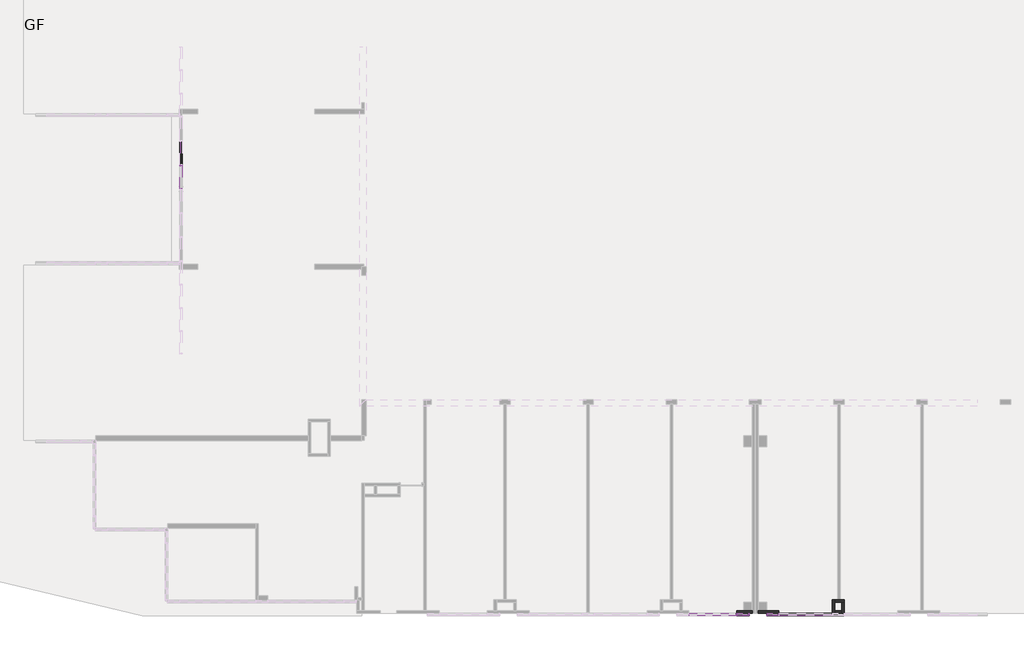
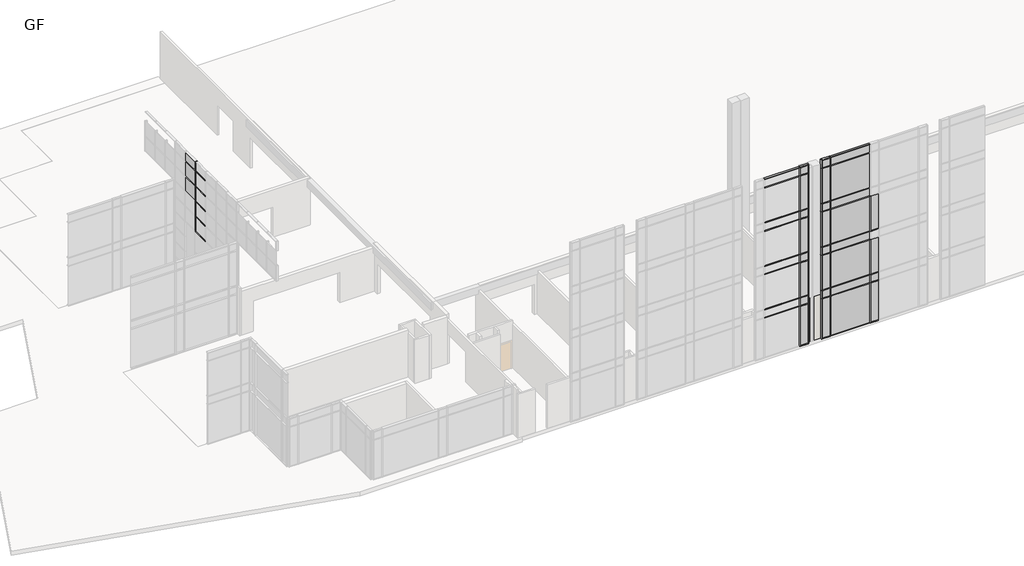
# One storey, part 7 of 23: 82 members, 31 plates, 6 walls.
"""IFC4 building model written with IfcOpenShell, lengths in millimetres."""

from ifc_helpers import new_model, si_unit, frame, origin, place, context, project, spatial, polyline, outline, extrude, faceted_brep, transform, mapped, element, save
from components import rectangular_mullion_50_x_150mm_64d38db8, rectangular_mullion_50_x_150mm_68b3818a, rectangular_mullion_50_x_150mm_f245f1eb, rectangular_mullion_50_x_150mm_350c86c2, rectangular_mullion_50_x_150mm_5fdcfccd, rectangular_mullion_50_x_150mm_d11e3bb4, rectangular_mullion_50_x_150mm_7d543e93, rectangular_mullion_50_x_150mm_9e0f1e24, rectangular_mullion_50_x_150mm_a95743fc, rectangular_mullion_50_x_150mm_dbb82e9e, rectangular_mullion_50_x_150mm_32aaa733, rectangular_mullion_50_x_150mm_9b8962c0, rectangular_mullion_50_x_150mm_2ef494cb, rectangular_mullion_50_x_150mm_4ae6e471, rectangular_mullion_50_x_150mm_a5886fcf, rectangular_mullion_50_x_150mm_d99dc9be, rectangular_mullion_50_x_150mm_457f9466, rectangular_mullion_50_x_150mm_b683183c, rectangular_mullion_50_x_150mm_ab14a89a, system_panel_glazed_f9f902e6, system_panel_glazed_6ff5b55b, system_panel_glazed_93ed122c, system_panel_glazed_123eee61, system_panel_glazed_ddb5812e, system_panel_glazed_21c84cce, system_panel_glazed_4108eabc, system_panel_glazed_0d58ddbb

model = new_model("IFC4")

# Units and contexts
model_context = context("Model", 3, world=origin())
ifc_project = project(units=[si_unit("LENGTHUNIT", "METRE", prefix="MILLI")], contexts=[model_context])

# Site, building, storey
site = spatial("IfcSite", under=ifc_project)
building = spatial("IfcBuilding", under=site)
storey = spatial("IfcBuildingStorey", under=building, Name="GF", Elevation=900.0)

# Members
placement = place(None, origin())
rectangular_mullion_50_x_150mm_shape = rectangular_mullion_50_x_150mm_64d38db8(model_context)
element("IfcMember", 1, ObjectType="Rectangular Mullion : 50 x 150mm", at=placement, inside=storey, context=model_context, shape_type="MappedRepresentation", body=[
    mapped(rectangular_mullion_50_x_150mm_shape, transform((672.4134101, -25897.6148653, 15125.0), x_axis=(0.0, 0.0, 1.0), y_axis=(0.0, -1.0, 0.0), z_axis=(1.0, 0.0, 0.0))),
])
element("IfcMember", 2, ObjectType="Rectangular Mullion : 50 x 150mm", at=placement, inside=storey, context=model_context, shape_type="MappedRepresentation", body=[
    mapped(rectangular_mullion_50_x_150mm_shape, transform((2342.4134101, -25897.6148653, 15125.0), x_axis=(0.0, 0.0, 1.0), y_axis=(0.0, -1.0, 0.0), z_axis=(1.0, 0.0, 0.0))),
])
element("IfcMember", 3, ObjectType="Rectangular Mullion : 50 x 150mm", at=placement, inside=storey, context=model_context, shape_type="MappedRepresentation", body=[
    mapped(rectangular_mullion_50_x_150mm_shape, transform((72.4134101, -25897.6148653, 900.0), x_axis=(0.0, 0.0, -1.0), y_axis=(0.0, -1.0, 0.0), z_axis=(-1.0, 0.0, 0.0))),
])
element("IfcMember", 4, ObjectType="Rectangular Mullion : 50 x 150mm", at=placement, inside=storey, context=model_context, shape_type="MappedRepresentation", body=[
    mapped(rectangular_mullion_50_x_150mm_shape, transform((1742.4134101, -25897.6148653, 900.0), x_axis=(0.0, 0.0, -1.0), y_axis=(0.0, -1.0, 0.0), z_axis=(-1.0, 0.0, 0.0))),
])
element("IfcMember", 5, ObjectType="Rectangular Mullion : 50 x 150mm", at=placement, inside=storey, context=model_context, shape_type="MappedRepresentation", body=[
    mapped(rectangular_mullion_50_x_150mm_shape, transform((5374.9134101, -25897.6148653, 900.0), x_axis=(0.0, 0.0, -1.0), y_axis=(0.0, -1.0, 0.0), z_axis=(-1.0, 0.0, 0.0))),
])
rectangular_mullion_50_x_150mm_2_shape = rectangular_mullion_50_x_150mm_68b3818a(model_context)
element("IfcMember", 6, ObjectType="Rectangular Mullion : 50 x 150mm", at=placement, inside=storey, context=model_context, shape_type="MappedRepresentation", body=[
    mapped(rectangular_mullion_50_x_150mm_2_shape, transform((672.4134101, -25897.6148653, 4750.0), x_axis=(0.0, 0.0, 1.0), y_axis=(0.0, -1.0, 0.0), z_axis=(1.0, 0.0, 0.0))),
])
element("IfcMember", 7, ObjectType="Rectangular Mullion : 50 x 150mm", at=placement, inside=storey, context=model_context, shape_type="MappedRepresentation", body=[
    mapped(rectangular_mullion_50_x_150mm_2_shape, transform((672.4134101, -25897.6148653, 4100.0), x_axis=(0.0, 0.0, 1.0), y_axis=(0.0, -1.0, 0.0), z_axis=(1.0, 0.0, 0.0))),
])
element("IfcMember", 8, ObjectType="Rectangular Mullion : 50 x 150mm", at=placement, inside=storey, context=model_context, shape_type="MappedRepresentation", body=[
    mapped(rectangular_mullion_50_x_150mm_2_shape, transform((672.4134101, -25897.6148653, 8200.0), x_axis=(0.0, 0.0, 1.0), y_axis=(0.0, -1.0, 0.0), z_axis=(1.0, 0.0, 0.0))),
])
element("IfcMember", 9, ObjectType="Rectangular Mullion : 50 x 150mm", at=placement, inside=storey, context=model_context, shape_type="MappedRepresentation", body=[
    mapped(rectangular_mullion_50_x_150mm_2_shape, transform((672.4134101, -25897.6148653, 11650.0), x_axis=(0.0, 0.0, 1.0), y_axis=(0.0, -1.0, 0.0), z_axis=(1.0, 0.0, 0.0))),
])
element("IfcMember", 10, ObjectType="Rectangular Mullion : 50 x 150mm", at=placement, inside=storey, context=model_context, shape_type="MappedRepresentation", body=[
    mapped(rectangular_mullion_50_x_150mm_2_shape, transform((672.4134101, -25897.6148653, 7550.0), x_axis=(0.0, 0.0, 1.0), y_axis=(0.0, -1.0, 0.0), z_axis=(1.0, 0.0, 0.0))),
])
element("IfcMember", 11, ObjectType="Rectangular Mullion : 50 x 150mm", at=placement, inside=storey, context=model_context, shape_type="MappedRepresentation", body=[
    mapped(rectangular_mullion_50_x_150mm_2_shape, transform((672.4134101, -25897.6148653, 11000.0), x_axis=(0.0, 0.0, 1.0), y_axis=(0.0, -1.0, 0.0), z_axis=(1.0, 0.0, 0.0))),
])
element("IfcMember", 12, ObjectType="Rectangular Mullion : 50 x 150mm", at=placement, inside=storey, context=model_context, shape_type="MappedRepresentation", body=[
    mapped(rectangular_mullion_50_x_150mm_2_shape, transform((672.4134101, -25897.6148653, 14450.0), x_axis=(0.0, 0.0, 1.0), y_axis=(0.0, -1.0, 0.0), z_axis=(1.0, 0.0, 0.0))),
])
element("IfcMember", 13, ObjectType="Rectangular Mullion : 50 x 150mm", at=placement, inside=storey, context=model_context, shape_type="MappedRepresentation", body=[
    mapped(rectangular_mullion_50_x_150mm_2_shape, transform((2342.4134101, -25897.6148653, 4750.0), x_axis=(0.0, 0.0, 1.0), y_axis=(0.0, -1.0, 0.0), z_axis=(1.0, 0.0, 0.0))),
])
element("IfcMember", 14, ObjectType="Rectangular Mullion : 50 x 150mm", at=placement, inside=storey, context=model_context, shape_type="MappedRepresentation", body=[
    mapped(rectangular_mullion_50_x_150mm_2_shape, transform((5974.9134101, -25897.6148653, 4750.0), x_axis=(0.0, 0.0, 1.0), y_axis=(0.0, -1.0, 0.0), z_axis=(1.0, 0.0, 0.0))),
])
element("IfcMember", 15, ObjectType="Rectangular Mullion : 50 x 150mm", at=placement, inside=storey, context=model_context, shape_type="MappedRepresentation", body=[
    mapped(rectangular_mullion_50_x_150mm_2_shape, transform((2342.4134101, -25897.6148653, 4100.0), x_axis=(0.0, 0.0, 1.0), y_axis=(0.0, -1.0, 0.0), z_axis=(1.0, 0.0, 0.0))),
])
element("IfcMember", 16, ObjectType="Rectangular Mullion : 50 x 150mm", at=placement, inside=storey, context=model_context, shape_type="MappedRepresentation", body=[
    mapped(rectangular_mullion_50_x_150mm_2_shape, transform((5974.9134101, -25897.6148653, 4100.0), x_axis=(0.0, 0.0, 1.0), y_axis=(0.0, -1.0, 0.0), z_axis=(1.0, 0.0, 0.0))),
])
element("IfcMember", 17, ObjectType="Rectangular Mullion : 50 x 150mm", at=placement, inside=storey, context=model_context, shape_type="MappedRepresentation", body=[
    mapped(rectangular_mullion_50_x_150mm_2_shape, transform((2342.4134101, -25897.6148653, 8200.0), x_axis=(0.0, 0.0, 1.0), y_axis=(0.0, -1.0, 0.0), z_axis=(1.0, 0.0, 0.0))),
])
element("IfcMember", 18, ObjectType="Rectangular Mullion : 50 x 150mm", at=placement, inside=storey, context=model_context, shape_type="MappedRepresentation", body=[
    mapped(rectangular_mullion_50_x_150mm_2_shape, transform((5974.9134101, -25897.6148653, 8200.0), x_axis=(0.0, 0.0, 1.0), y_axis=(0.0, -1.0, 0.0), z_axis=(1.0, 0.0, 0.0))),
])
element("IfcMember", 19, ObjectType="Rectangular Mullion : 50 x 150mm", at=placement, inside=storey, context=model_context, shape_type="MappedRepresentation", body=[
    mapped(rectangular_mullion_50_x_150mm_2_shape, transform((2342.4134101, -25897.6148653, 11650.0), x_axis=(0.0, 0.0, 1.0), y_axis=(0.0, -1.0, 0.0), z_axis=(1.0, 0.0, 0.0))),
])
element("IfcMember", 20, ObjectType="Rectangular Mullion : 50 x 150mm", at=placement, inside=storey, context=model_context, shape_type="MappedRepresentation", body=[
    mapped(rectangular_mullion_50_x_150mm_2_shape, transform((2342.4134101, -25897.6148653, 7550.0), x_axis=(0.0, 0.0, 1.0), y_axis=(0.0, -1.0, 0.0), z_axis=(1.0, 0.0, 0.0))),
])
element("IfcMember", 21, ObjectType="Rectangular Mullion : 50 x 150mm", at=placement, inside=storey, context=model_context, shape_type="MappedRepresentation", body=[
    mapped(rectangular_mullion_50_x_150mm_2_shape, transform((2342.4134101, -25897.6148653, 11000.0), x_axis=(0.0, 0.0, 1.0), y_axis=(0.0, -1.0, 0.0), z_axis=(1.0, 0.0, 0.0))),
])
element("IfcMember", 22, ObjectType="Rectangular Mullion : 50 x 150mm", at=placement, inside=storey, context=model_context, shape_type="MappedRepresentation", body=[
    mapped(rectangular_mullion_50_x_150mm_2_shape, transform((2342.4134101, -25897.6148653, 14450.0), x_axis=(0.0, 0.0, 1.0), y_axis=(0.0, -1.0, 0.0), z_axis=(1.0, 0.0, 0.0))),
])
rectangular_mullion_50_x_150mm_3_shape = rectangular_mullion_50_x_150mm_f245f1eb(model_context)
element("IfcMember", 23, ObjectType="Rectangular Mullion : 50 x 150mm", at=placement, inside=storey, context=model_context, shape_type="MappedRepresentation", body=[
    mapped(rectangular_mullion_50_x_150mm_3_shape, transform((47.4134101, -25897.6148653, 900.0), x_axis=(1.0, 0.0, 0.0), y_axis=(0.0, -1.0, 0.0), z_axis=(0.0, 0.0, -1.0))),
])
element("IfcMember", 24, ObjectType="Rectangular Mullion : 50 x 150mm", at=placement, inside=storey, context=model_context, shape_type="MappedRepresentation", body=[
    mapped(rectangular_mullion_50_x_150mm_3_shape, transform((2367.4134101, -25897.6148653, 900.0), x_axis=(1.0, 0.0, 0.0), y_axis=(0.0, -1.0, 0.0), z_axis=(0.0, 0.0, -1.0))),
])
element("IfcMember", 25, ObjectType="Rectangular Mullion : 50 x 150mm", at=placement, inside=storey, context=model_context, shape_type="MappedRepresentation", body=[
    mapped(rectangular_mullion_50_x_150mm_3_shape, transform((5349.9134101, -25897.6148653, 900.0), x_axis=(1.0, 0.0, 0.0), y_axis=(0.0, -1.0, 0.0), z_axis=(0.0, 0.0, -1.0))),
])
rectangular_mullion_50_x_150mm_4_shape = rectangular_mullion_50_x_150mm_350c86c2(model_context)
element("IfcMember", 26, ObjectType="Rectangular Mullion : 50 x 150mm", at=placement, inside=storey, context=model_context, shape_type="MappedRepresentation", body=[
    mapped(rectangular_mullion_50_x_150mm_4_shape, transform((22.4134101, -25897.6148653, 15125.0), x_axis=(0.0, 0.0, 1.0), y_axis=(0.0, -1.0, 0.0), z_axis=(1.0, 0.0, 0.0))),
])
rectangular_mullion_50_x_150mm_5_shape = rectangular_mullion_50_x_150mm_5fdcfccd(model_context)
element("IfcMember", 27, ObjectType="Rectangular Mullion : 50 x 150mm", at=placement, inside=storey, context=model_context, shape_type="MappedRepresentation", body=[
    mapped(rectangular_mullion_50_x_150mm_5_shape, transform((22.4134101, -25897.6148653, 4750.0), x_axis=(0.0, 0.0, 1.0), y_axis=(0.0, -1.0, 0.0), z_axis=(1.0, 0.0, 0.0))),
])
element("IfcMember", 28, ObjectType="Rectangular Mullion : 50 x 150mm", at=placement, inside=storey, context=model_context, shape_type="MappedRepresentation", body=[
    mapped(rectangular_mullion_50_x_150mm_5_shape, transform((22.4134101, -25897.6148653, 4100.0), x_axis=(0.0, 0.0, 1.0), y_axis=(0.0, -1.0, 0.0), z_axis=(1.0, 0.0, 0.0))),
])
element("IfcMember", 29, ObjectType="Rectangular Mullion : 50 x 150mm", at=placement, inside=storey, context=model_context, shape_type="MappedRepresentation", body=[
    mapped(rectangular_mullion_50_x_150mm_5_shape, transform((22.4134101, -25897.6148653, 8200.0), x_axis=(0.0, 0.0, 1.0), y_axis=(0.0, -1.0, 0.0), z_axis=(1.0, 0.0, 0.0))),
])
element("IfcMember", 30, ObjectType="Rectangular Mullion : 50 x 150mm", at=placement, inside=storey, context=model_context, shape_type="MappedRepresentation", body=[
    mapped(rectangular_mullion_50_x_150mm_5_shape, transform((22.4134101, -25897.6148653, 11650.0), x_axis=(0.0, 0.0, 1.0), y_axis=(0.0, -1.0, 0.0), z_axis=(1.0, 0.0, 0.0))),
])
element("IfcMember", 31, ObjectType="Rectangular Mullion : 50 x 150mm", at=placement, inside=storey, context=model_context, shape_type="MappedRepresentation", body=[
    mapped(rectangular_mullion_50_x_150mm_5_shape, transform((22.4134101, -25897.6148653, 7550.0), x_axis=(0.0, 0.0, 1.0), y_axis=(0.0, -1.0, 0.0), z_axis=(1.0, 0.0, 0.0))),
])
element("IfcMember", 32, ObjectType="Rectangular Mullion : 50 x 150mm", at=placement, inside=storey, context=model_context, shape_type="MappedRepresentation", body=[
    mapped(rectangular_mullion_50_x_150mm_5_shape, transform((22.4134101, -25897.6148653, 11000.0), x_axis=(0.0, 0.0, 1.0), y_axis=(0.0, -1.0, 0.0), z_axis=(1.0, 0.0, 0.0))),
])
element("IfcMember", 33, ObjectType="Rectangular Mullion : 50 x 150mm", at=placement, inside=storey, context=model_context, shape_type="MappedRepresentation", body=[
    mapped(rectangular_mullion_50_x_150mm_5_shape, transform((22.4134101, -25897.6148653, 14450.0), x_axis=(0.0, 0.0, 1.0), y_axis=(0.0, -1.0, 0.0), z_axis=(1.0, 0.0, 0.0))),
])
rectangular_mullion_50_x_150mm_6_shape = rectangular_mullion_50_x_150mm_d11e3bb4(model_context)
element("IfcMember", 34, ObjectType="Rectangular Mullion : 50 x 150mm", at=placement, inside=storey, context=model_context, shape_type="MappedRepresentation", body=[
    mapped(rectangular_mullion_50_x_150mm_6_shape, transform((47.4134101, -25897.6148653, 4750.0), x_axis=(1.0, 0.0, 0.0), y_axis=(0.0, -1.0, 0.0), z_axis=(0.0, 0.0, -1.0))),
])
element("IfcMember", 35, ObjectType="Rectangular Mullion : 50 x 150mm", at=placement, inside=storey, context=model_context, shape_type="MappedRepresentation", body=[
    mapped(rectangular_mullion_50_x_150mm_6_shape, transform((47.4134101, -25897.6148653, 8200.0), x_axis=(1.0, 0.0, 0.0), y_axis=(0.0, -1.0, 0.0), z_axis=(0.0, 0.0, -1.0))),
])
element("IfcMember", 36, ObjectType="Rectangular Mullion : 50 x 150mm", at=placement, inside=storey, context=model_context, shape_type="MappedRepresentation", body=[
    mapped(rectangular_mullion_50_x_150mm_6_shape, transform((47.4134101, -25897.6148653, 11650.0), x_axis=(1.0, 0.0, 0.0), y_axis=(0.0, -1.0, 0.0), z_axis=(0.0, 0.0, -1.0))),
])
element("IfcMember", 37, ObjectType="Rectangular Mullion : 50 x 150mm", at=placement, inside=storey, context=model_context, shape_type="MappedRepresentation", body=[
    mapped(rectangular_mullion_50_x_150mm_6_shape, transform((2367.4134101, -25897.6148653, 4750.0), x_axis=(1.0, 0.0, 0.0), y_axis=(0.0, -1.0, 0.0), z_axis=(0.0, 0.0, -1.0))),
])
element("IfcMember", 38, ObjectType="Rectangular Mullion : 50 x 150mm", at=placement, inside=storey, context=model_context, shape_type="MappedRepresentation", body=[
    mapped(rectangular_mullion_50_x_150mm_6_shape, transform((5349.9134101, -25897.6148653, 4750.0), x_axis=(1.0, 0.0, 0.0), y_axis=(0.0, -1.0, 0.0), z_axis=(0.0, 0.0, -1.0))),
])
element("IfcMember", 39, ObjectType="Rectangular Mullion : 50 x 150mm", at=placement, inside=storey, context=model_context, shape_type="MappedRepresentation", body=[
    mapped(rectangular_mullion_50_x_150mm_6_shape, transform((2367.4134101, -25897.6148653, 8200.0), x_axis=(1.0, 0.0, 0.0), y_axis=(0.0, -1.0, 0.0), z_axis=(0.0, 0.0, -1.0))),
])
element("IfcMember", 40, ObjectType="Rectangular Mullion : 50 x 150mm", at=placement, inside=storey, context=model_context, shape_type="MappedRepresentation", body=[
    mapped(rectangular_mullion_50_x_150mm_6_shape, transform((5349.9134101, -25897.6148653, 8200.0), x_axis=(1.0, 0.0, 0.0), y_axis=(0.0, -1.0, 0.0), z_axis=(0.0, 0.0, -1.0))),
])
element("IfcMember", 41, ObjectType="Rectangular Mullion : 50 x 150mm", at=placement, inside=storey, context=model_context, shape_type="MappedRepresentation", body=[
    mapped(rectangular_mullion_50_x_150mm_6_shape, transform((2367.4134101, -25897.6148653, 11650.0), x_axis=(1.0, 0.0, 0.0), y_axis=(0.0, -1.0, 0.0), z_axis=(0.0, 0.0, -1.0))),
])
rectangular_mullion_50_x_150mm_7_shape = rectangular_mullion_50_x_150mm_7d543e93(model_context)
element("IfcMember", 42, ObjectType="Rectangular Mullion : 50 x 150mm", at=placement, inside=storey, context=model_context, shape_type="MappedRepresentation", body=[
    mapped(rectangular_mullion_50_x_150mm_7_shape, transform((47.4134101, -25897.6148653, 4100.0), x_axis=(1.0, 0.0, 0.0), y_axis=(0.0, -1.0, 0.0), z_axis=(0.0, 0.0, -1.0))),
])
element("IfcMember", 43, ObjectType="Rectangular Mullion : 50 x 150mm", at=placement, inside=storey, context=model_context, shape_type="MappedRepresentation", body=[
    mapped(rectangular_mullion_50_x_150mm_7_shape, transform((47.4134101, -25897.6148653, 7550.0), x_axis=(1.0, 0.0, 0.0), y_axis=(0.0, -1.0, 0.0), z_axis=(0.0, 0.0, -1.0))),
])
element("IfcMember", 44, ObjectType="Rectangular Mullion : 50 x 150mm", at=placement, inside=storey, context=model_context, shape_type="MappedRepresentation", body=[
    mapped(rectangular_mullion_50_x_150mm_7_shape, transform((47.4134101, -25897.6148653, 11000.0), x_axis=(1.0, 0.0, 0.0), y_axis=(0.0, -1.0, 0.0), z_axis=(0.0, 0.0, -1.0))),
])
element("IfcMember", 45, ObjectType="Rectangular Mullion : 50 x 150mm", at=placement, inside=storey, context=model_context, shape_type="MappedRepresentation", body=[
    mapped(rectangular_mullion_50_x_150mm_7_shape, transform((2367.4134101, -25897.6148653, 4100.0), x_axis=(1.0, 0.0, 0.0), y_axis=(0.0, -1.0, 0.0), z_axis=(0.0, 0.0, -1.0))),
])
element("IfcMember", 46, ObjectType="Rectangular Mullion : 50 x 150mm", at=placement, inside=storey, context=model_context, shape_type="MappedRepresentation", body=[
    mapped(rectangular_mullion_50_x_150mm_7_shape, transform((5349.9134101, -25897.6148653, 4100.0), x_axis=(1.0, 0.0, 0.0), y_axis=(0.0, -1.0, 0.0), z_axis=(0.0, 0.0, -1.0))),
])
element("IfcMember", 47, ObjectType="Rectangular Mullion : 50 x 150mm", at=placement, inside=storey, context=model_context, shape_type="MappedRepresentation", body=[
    mapped(rectangular_mullion_50_x_150mm_7_shape, transform((2367.4134101, -25897.6148653, 7550.0), x_axis=(1.0, 0.0, 0.0), y_axis=(0.0, -1.0, 0.0), z_axis=(0.0, 0.0, -1.0))),
])
element("IfcMember", 48, ObjectType="Rectangular Mullion : 50 x 150mm", at=placement, inside=storey, context=model_context, shape_type="MappedRepresentation", body=[
    mapped(rectangular_mullion_50_x_150mm_7_shape, transform((2367.4134101, -25897.6148653, 11000.0), x_axis=(1.0, 0.0, 0.0), y_axis=(0.0, -1.0, 0.0), z_axis=(0.0, 0.0, -1.0))),
])
rectangular_mullion_50_x_150mm_8_shape = rectangular_mullion_50_x_150mm_9e0f1e24(model_context)
element("IfcMember", 49, ObjectType="Rectangular Mullion : 50 x 150mm", at=placement, inside=storey, context=model_context, shape_type="MappedRepresentation", body=[
    mapped(rectangular_mullion_50_x_150mm_8_shape, transform((47.4134101, -25897.6148653, 14450.0), x_axis=(1.0, 0.0, 0.0), y_axis=(0.0, -1.0, 0.0), z_axis=(0.0, 0.0, -1.0))),
])
element("IfcMember", 50, ObjectType="Rectangular Mullion : 50 x 150mm", at=placement, inside=storey, context=model_context, shape_type="MappedRepresentation", body=[
    mapped(rectangular_mullion_50_x_150mm_8_shape, transform((2367.4134101, -25897.6148653, 14450.0), x_axis=(1.0, 0.0, 0.0), y_axis=(0.0, -1.0, 0.0), z_axis=(0.0, 0.0, -1.0))),
])
rectangular_mullion_50_x_150mm_9_shape = rectangular_mullion_50_x_150mm_a95743fc(model_context)
element("IfcMember", 51, ObjectType="Rectangular Mullion : 50 x 150mm", at=placement, inside=storey, context=model_context, shape_type="MappedRepresentation", body=[
    mapped(rectangular_mullion_50_x_150mm_9_shape, transform((722.4134101, -25897.6148653, 900.0), x_axis=(1.0, 0.0, 0.0), y_axis=(0.0, -1.0, 0.0), z_axis=(0.0, 0.0, -1.0))),
])
rectangular_mullion_50_x_150mm_10_shape = rectangular_mullion_50_x_150mm_dbb82e9e(model_context)
element("IfcMember", 52, ObjectType="Rectangular Mullion : 50 x 150mm", at=placement, inside=storey, context=model_context, shape_type="MappedRepresentation", body=[
    mapped(rectangular_mullion_50_x_150mm_10_shape, transform((1692.4134101, -25897.6148653, 15125.0), x_axis=(-1.0, 0.0, 0.0), y_axis=(0.0, -1.0, 0.0), z_axis=(0.0, 0.0, 1.0))),
])
rectangular_mullion_50_x_150mm_11_shape = rectangular_mullion_50_x_150mm_32aaa733(model_context)
element("IfcMember", 53, ObjectType="Rectangular Mullion : 50 x 150mm", at=placement, inside=storey, context=model_context, shape_type="MappedRepresentation", body=[
    mapped(rectangular_mullion_50_x_150mm_11_shape, transform((722.4134101, -25897.6148653, 4750.0), x_axis=(1.0, 0.0, 0.0), y_axis=(0.0, -1.0, 0.0), z_axis=(0.0, 0.0, -1.0))),
])
element("IfcMember", 54, ObjectType="Rectangular Mullion : 50 x 150mm", at=placement, inside=storey, context=model_context, shape_type="MappedRepresentation", body=[
    mapped(rectangular_mullion_50_x_150mm_11_shape, transform((722.4134101, -25897.6148653, 8200.0), x_axis=(1.0, 0.0, 0.0), y_axis=(0.0, -1.0, 0.0), z_axis=(0.0, 0.0, -1.0))),
])
element("IfcMember", 55, ObjectType="Rectangular Mullion : 50 x 150mm", at=placement, inside=storey, context=model_context, shape_type="MappedRepresentation", body=[
    mapped(rectangular_mullion_50_x_150mm_11_shape, transform((722.4134101, -25897.6148653, 11650.0), x_axis=(1.0, 0.0, 0.0), y_axis=(0.0, -1.0, 0.0), z_axis=(0.0, 0.0, -1.0))),
])
rectangular_mullion_50_x_150mm_12_shape = rectangular_mullion_50_x_150mm_9b8962c0(model_context)
element("IfcMember", 56, ObjectType="Rectangular Mullion : 50 x 150mm", at=placement, inside=storey, context=model_context, shape_type="MappedRepresentation", body=[
    mapped(rectangular_mullion_50_x_150mm_12_shape, transform((1692.4134101, -25897.6148653, 4750.0), x_axis=(-1.0, 0.0, 0.0), y_axis=(0.0, -1.0, 0.0), z_axis=(0.0, 0.0, 1.0))),
])
element("IfcMember", 57, ObjectType="Rectangular Mullion : 50 x 150mm", at=placement, inside=storey, context=model_context, shape_type="MappedRepresentation", body=[
    mapped(rectangular_mullion_50_x_150mm_12_shape, transform((1692.4134101, -25897.6148653, 8200.0), x_axis=(-1.0, 0.0, 0.0), y_axis=(0.0, -1.0, 0.0), z_axis=(0.0, 0.0, 1.0))),
])
element("IfcMember", 58, ObjectType="Rectangular Mullion : 50 x 150mm", at=placement, inside=storey, context=model_context, shape_type="MappedRepresentation", body=[
    mapped(rectangular_mullion_50_x_150mm_12_shape, transform((1692.4134101, -25897.6148653, 11650.0), x_axis=(-1.0, 0.0, 0.0), y_axis=(0.0, -1.0, 0.0), z_axis=(0.0, 0.0, 1.0))),
])
element("IfcMember", 59, ObjectType="Rectangular Mullion : 50 x 150mm", at=placement, inside=storey, context=model_context, shape_type="MappedRepresentation", body=[
    mapped(rectangular_mullion_50_x_150mm_12_shape, transform((722.4134101, -25897.6148653, 4100.0), x_axis=(1.0, 0.0, 0.0), y_axis=(0.0, -1.0, 0.0), z_axis=(0.0, 0.0, -1.0))),
])
element("IfcMember", 60, ObjectType="Rectangular Mullion : 50 x 150mm", at=placement, inside=storey, context=model_context, shape_type="MappedRepresentation", body=[
    mapped(rectangular_mullion_50_x_150mm_12_shape, transform((722.4134101, -25897.6148653, 7550.0), x_axis=(1.0, 0.0, 0.0), y_axis=(0.0, -1.0, 0.0), z_axis=(0.0, 0.0, -1.0))),
])
element("IfcMember", 61, ObjectType="Rectangular Mullion : 50 x 150mm", at=placement, inside=storey, context=model_context, shape_type="MappedRepresentation", body=[
    mapped(rectangular_mullion_50_x_150mm_12_shape, transform((722.4134101, -25897.6148653, 11000.0), x_axis=(1.0, 0.0, 0.0), y_axis=(0.0, -1.0, 0.0), z_axis=(0.0, 0.0, -1.0))),
])
element("IfcMember", 62, ObjectType="Rectangular Mullion : 50 x 150mm", at=placement, inside=storey, context=model_context, shape_type="MappedRepresentation", body=[
    mapped(rectangular_mullion_50_x_150mm_9_shape, transform((1692.4134101, -25897.6148653, 4100.0), x_axis=(-1.0, 0.0, 0.0), y_axis=(0.0, -1.0, 0.0), z_axis=(0.0, 0.0, 1.0))),
])
element("IfcMember", 63, ObjectType="Rectangular Mullion : 50 x 150mm", at=placement, inside=storey, context=model_context, shape_type="MappedRepresentation", body=[
    mapped(rectangular_mullion_50_x_150mm_11_shape, transform((1692.4134101, -25897.6148653, 7550.0), x_axis=(-1.0, 0.0, 0.0), y_axis=(0.0, -1.0, 0.0), z_axis=(0.0, 0.0, 1.0))),
])
element("IfcMember", 64, ObjectType="Rectangular Mullion : 50 x 150mm", at=placement, inside=storey, context=model_context, shape_type="MappedRepresentation", body=[
    mapped(rectangular_mullion_50_x_150mm_11_shape, transform((1692.4134101, -25897.6148653, 11000.0), x_axis=(-1.0, 0.0, 0.0), y_axis=(0.0, -1.0, 0.0), z_axis=(0.0, 0.0, 1.0))),
])
element("IfcMember", 65, ObjectType="Rectangular Mullion : 50 x 150mm", at=placement, inside=storey, context=model_context, shape_type="MappedRepresentation", body=[
    mapped(rectangular_mullion_50_x_150mm_11_shape, transform((1692.4134101, -25897.6148653, 14450.0), x_axis=(-1.0, 0.0, 0.0), y_axis=(0.0, -1.0, 0.0), z_axis=(0.0, 0.0, 1.0))),
])
element("IfcMember", 66, ObjectType="Rectangular Mullion : 50 x 150mm", at=placement, inside=storey, context=model_context, shape_type="MappedRepresentation", body=[
    mapped(rectangular_mullion_50_x_150mm_10_shape, transform((722.4134101, -25897.6148653, 14450.0), x_axis=(1.0, 0.0, 0.0), y_axis=(0.0, -1.0, 0.0), z_axis=(0.0, 0.0, -1.0))),
])
rectangular_mullion_50_x_150mm_13_shape = rectangular_mullion_50_x_150mm_2ef494cb(model_context)
element("IfcMember", 67, ObjectType="Rectangular Mullion : 50 x 150mm", at=placement, inside=storey, context=model_context, shape_type="MappedRepresentation", body=[
    mapped(rectangular_mullion_50_x_150mm_13_shape, transform((2392.4134101, -25897.6148653, 900.0), x_axis=(0.0, 0.0, -1.0), y_axis=(0.0, -1.0, 0.0), z_axis=(-1.0, 0.0, 0.0))),
])
element("IfcMember", 68, ObjectType="Rectangular Mullion : 50 x 150mm", at=placement, inside=storey, context=model_context, shape_type="MappedRepresentation", body=[
    mapped(rectangular_mullion_50_x_150mm_13_shape, transform((5324.9134101, -25897.6148653, 15125.0), x_axis=(0.0, 0.0, 1.0), y_axis=(0.0, -1.0, 0.0), z_axis=(1.0, 0.0, 0.0))),
])
rectangular_mullion_50_x_150mm_14_shape = rectangular_mullion_50_x_150mm_4ae6e471(model_context)
element("IfcMember", 69, ObjectType="Rectangular Mullion : 50 x 150mm", at=placement, inside=storey, context=model_context, shape_type="MappedRepresentation", body=[
    mapped(rectangular_mullion_50_x_150mm_14_shape, transform((5324.9134101, -25897.6148653, 4750.0), x_axis=(0.0, 0.0, 1.0), y_axis=(0.0, -1.0, 0.0), z_axis=(1.0, 0.0, 0.0))),
])
element("IfcMember", 70, ObjectType="Rectangular Mullion : 50 x 150mm", at=placement, inside=storey, context=model_context, shape_type="MappedRepresentation", body=[
    mapped(rectangular_mullion_50_x_150mm_14_shape, transform((5324.9134101, -25897.6148653, 4100.0), x_axis=(0.0, 0.0, 1.0), y_axis=(0.0, -1.0, 0.0), z_axis=(1.0, 0.0, 0.0))),
])
element("IfcMember", 71, ObjectType="Rectangular Mullion : 50 x 150mm", at=placement, inside=storey, context=model_context, shape_type="MappedRepresentation", body=[
    mapped(rectangular_mullion_50_x_150mm_14_shape, transform((5324.9134101, -25897.6148653, 8200.0), x_axis=(0.0, 0.0, 1.0), y_axis=(0.0, -1.0, 0.0), z_axis=(1.0, 0.0, 0.0))),
])
rectangular_mullion_50_x_150mm_15_shape = rectangular_mullion_50_x_150mm_a5886fcf(model_context)
element("IfcMember", 72, ObjectType="Rectangular Mullion : 50 x 150mm", at=placement, inside=storey, context=model_context, shape_type="MappedRepresentation", body=[
    mapped(rectangular_mullion_50_x_150mm_15_shape, transform((-30812.5865899, -975.9481986, 9300.0), x_axis=(0.0, 0.0, 1.0), y_axis=(1.0, 0.0, 0.0), z_axis=(0.0, 1.0, 0.0))),
])
element("IfcMember", 73, ObjectType="Rectangular Mullion : 50 x 150mm", at=placement, inside=storey, context=model_context, shape_type="MappedRepresentation", body=[
    mapped(rectangular_mullion_50_x_150mm_15_shape, transform((-30812.5865899, -975.9481986, 10500.0), x_axis=(0.0, 0.0, 1.0), y_axis=(1.0, 0.0, 0.0), z_axis=(0.0, 1.0, 0.0))),
])
element("IfcMember", 74, ObjectType="Rectangular Mullion : 50 x 150mm", at=placement, inside=storey, context=model_context, shape_type="MappedRepresentation", body=[
    mapped(rectangular_mullion_50_x_150mm_15_shape, transform((-30812.5865899, -975.9481986, 5700.0), x_axis=(0.0, 0.0, 1.0), y_axis=(1.0, 0.0, 0.0), z_axis=(0.0, 1.0, 0.0))),
])
element("IfcMember", 75, ObjectType="Rectangular Mullion : 50 x 150mm", at=placement, inside=storey, context=model_context, shape_type="MappedRepresentation", body=[
    mapped(rectangular_mullion_50_x_150mm_15_shape, transform((-30812.5865899, -975.9481986, 6900.0), x_axis=(0.0, 0.0, 1.0), y_axis=(1.0, 0.0, 0.0), z_axis=(0.0, 1.0, 0.0))),
])
element("IfcMember", 76, ObjectType="Rectangular Mullion : 50 x 150mm", at=placement, inside=storey, context=model_context, shape_type="MappedRepresentation", body=[
    mapped(rectangular_mullion_50_x_150mm_15_shape, transform((-30812.5865899, -975.9481986, 8100.0), x_axis=(0.0, 0.0, 1.0), y_axis=(1.0, 0.0, 0.0), z_axis=(0.0, 1.0, 0.0))),
])
rectangular_mullion_50_x_150mm_16_shape = rectangular_mullion_50_x_150mm_d99dc9be(model_context)
element("IfcMember", 77, ObjectType="Rectangular Mullion : 50 x 150mm", at=placement, inside=storey, context=model_context, shape_type="MappedRepresentation", body=[
    mapped(rectangular_mullion_50_x_150mm_16_shape, transform((-30812.5865899, -950.9481986, 8100.0), x_axis=(0.0, 1.0, 0.0), y_axis=(1.0, 0.0, 0.0), z_axis=(0.0, 0.0, -1.0))),
])
element("IfcMember", 78, ObjectType="Rectangular Mullion : 50 x 150mm", at=placement, inside=storey, context=model_context, shape_type="MappedRepresentation", body=[
    mapped(rectangular_mullion_50_x_150mm_16_shape, transform((-30812.5865899, -950.9481986, 9300.0), x_axis=(0.0, 1.0, 0.0), y_axis=(1.0, 0.0, 0.0), z_axis=(0.0, 0.0, -1.0))),
])
element("IfcMember", 79, ObjectType="Rectangular Mullion : 50 x 150mm", at=placement, inside=storey, context=model_context, shape_type="MappedRepresentation", body=[
    mapped(rectangular_mullion_50_x_150mm_16_shape, transform((-30812.5865899, -950.9481986, 6900.0), x_axis=(0.0, 1.0, 0.0), y_axis=(1.0, 0.0, 0.0), z_axis=(0.0, 0.0, -1.0))),
])
rectangular_mullion_50_x_150mm_17_shape = rectangular_mullion_50_x_150mm_457f9466(model_context)
element("IfcMember", 80, ObjectType="Rectangular Mullion : 50 x 150mm", at=placement, inside=storey, context=model_context, shape_type="MappedRepresentation", body=[
    mapped(rectangular_mullion_50_x_150mm_17_shape, transform((-30812.5865899, -950.9481986, 10500.0), x_axis=(0.0, 1.0, 0.0), y_axis=(1.0, 0.0, 0.0), z_axis=(0.0, 0.0, -1.0))),
])
rectangular_mullion_50_x_150mm_18_shape = rectangular_mullion_50_x_150mm_b683183c(model_context)
element("IfcMember", 81, ObjectType="Rectangular Mullion : 50 x 150mm", at=placement, inside=storey, context=model_context, shape_type="MappedRepresentation", body=[
    mapped(rectangular_mullion_50_x_150mm_18_shape, transform((-30812.5865899, -950.9481986, 900.0), x_axis=(0.0, 0.0, -1.0), y_axis=(1.0, 0.0, 0.0), z_axis=(0.0, -1.0, 0.0))),
])
rectangular_mullion_50_x_150mm_19_shape = rectangular_mullion_50_x_150mm_ab14a89a(model_context)
element("IfcMember", 82, ObjectType="Rectangular Mullion : 50 x 150mm", at=placement, inside=storey, context=model_context, shape_type="MappedRepresentation", body=[
    mapped(rectangular_mullion_50_x_150mm_19_shape, transform((-30812.5865899, -950.9481986, 5675.0), x_axis=(0.0, 1.0, 0.0), y_axis=(1.0, 0.0, 0.0), z_axis=(0.0, 0.0, -1.0))),
])

# Plates
system_panel_glazed_shape = system_panel_glazed_f9f902e6(model_context)
element("IfcPlate", 83, ObjectType="System Panel : Glazed", at=placement, inside=storey, context=model_context, shape_type="MappedRepresentation", body=[
    mapped(system_panel_glazed_shape, transform((372.4134101, -25897.6148653, 950.0), x_axis=(1.0, 0.0, 0.0), y_axis=(0.0, 1.0, 0.0), z_axis=(0.0, 0.0, 1.0))),
])
element("IfcPlate", 84, ObjectType="System Panel : Glazed", at=placement, inside=storey, context=model_context, shape_type="MappedRepresentation", body=[
    mapped(system_panel_glazed_shape, transform((2042.4134101, -25897.6148653, 950.0), x_axis=(1.0, 0.0, 0.0), y_axis=(0.0, 1.0, 0.0), z_axis=(0.0, 0.0, 1.0))),
])
element("IfcPlate", 85, ObjectType="System Panel : Glazed", at=placement, inside=storey, context=model_context, shape_type="MappedRepresentation", body=[
    mapped(system_panel_glazed_shape, transform((5674.9134101, -25897.6148653, 950.0), x_axis=(1.0, 0.0, 0.0), y_axis=(0.0, 1.0, 0.0), z_axis=(0.0, 0.0, 1.0))),
])
system_panel_glazed_2_shape = system_panel_glazed_6ff5b55b(model_context)
element("IfcPlate", 86, ObjectType="System Panel : Glazed", at=placement, inside=storey, context=model_context, shape_type="MappedRepresentation", body=[
    mapped(system_panel_glazed_2_shape, transform((372.4134101, -25897.6148653, 4775.0), x_axis=(1.0, 0.0, 0.0), y_axis=(0.0, 1.0, 0.0), z_axis=(0.0, 0.0, 1.0))),
])
element("IfcPlate", 87, ObjectType="System Panel : Glazed", at=placement, inside=storey, context=model_context, shape_type="MappedRepresentation", body=[
    mapped(system_panel_glazed_2_shape, transform((372.4134101, -25897.6148653, 8225.0), x_axis=(1.0, 0.0, 0.0), y_axis=(0.0, 1.0, 0.0), z_axis=(0.0, 0.0, 1.0))),
])
element("IfcPlate", 88, ObjectType="System Panel : Glazed", at=placement, inside=storey, context=model_context, shape_type="MappedRepresentation", body=[
    mapped(system_panel_glazed_2_shape, transform((372.4134101, -25897.6148653, 11675.0), x_axis=(1.0, 0.0, 0.0), y_axis=(0.0, 1.0, 0.0), z_axis=(0.0, 0.0, 1.0))),
])
element("IfcPlate", 89, ObjectType="System Panel : Glazed", at=placement, inside=storey, context=model_context, shape_type="MappedRepresentation", body=[
    mapped(system_panel_glazed_2_shape, transform((2042.4134101, -25897.6148653, 4775.0), x_axis=(1.0, 0.0, 0.0), y_axis=(0.0, 1.0, 0.0), z_axis=(0.0, 0.0, 1.0))),
])
element("IfcPlate", 90, ObjectType="System Panel : Glazed", at=placement, inside=storey, context=model_context, shape_type="MappedRepresentation", body=[
    mapped(system_panel_glazed_2_shape, transform((5674.9134101, -25897.6148653, 4775.0), x_axis=(1.0, 0.0, 0.0), y_axis=(0.0, 1.0, 0.0), z_axis=(0.0, 0.0, 1.0))),
])
element("IfcPlate", 91, ObjectType="System Panel : Glazed", at=placement, inside=storey, context=model_context, shape_type="MappedRepresentation", body=[
    mapped(system_panel_glazed_2_shape, transform((2042.4134101, -25897.6148653, 8225.0), x_axis=(1.0, 0.0, 0.0), y_axis=(0.0, 1.0, 0.0), z_axis=(0.0, 0.0, 1.0))),
])
element("IfcPlate", 92, ObjectType="System Panel : Glazed", at=placement, inside=storey, context=model_context, shape_type="MappedRepresentation", body=[
    mapped(system_panel_glazed_2_shape, transform((5674.9134101, -25897.6148653, 8225.0), x_axis=(1.0, 0.0, 0.0), y_axis=(0.0, 1.0, 0.0), z_axis=(0.0, 0.0, 1.0))),
])
element("IfcPlate", 93, ObjectType="System Panel : Glazed", at=placement, inside=storey, context=model_context, shape_type="MappedRepresentation", body=[
    mapped(system_panel_glazed_2_shape, transform((2042.4134101, -25897.6148653, 11675.0), x_axis=(1.0, 0.0, 0.0), y_axis=(0.0, 1.0, 0.0), z_axis=(0.0, 0.0, 1.0))),
])
system_panel_glazed_3_shape = system_panel_glazed_93ed122c(model_context)
element("IfcPlate", 94, ObjectType="System Panel : Glazed", at=placement, inside=storey, context=model_context, shape_type="MappedRepresentation", body=[
    mapped(system_panel_glazed_3_shape, transform((372.4134101, -25897.6148653, 4125.0), x_axis=(1.0, 0.0, 0.0), y_axis=(0.0, 1.0, 0.0), z_axis=(0.0, 0.0, 1.0))),
])
element("IfcPlate", 95, ObjectType="System Panel : Glazed", at=placement, inside=storey, context=model_context, shape_type="MappedRepresentation", body=[
    mapped(system_panel_glazed_3_shape, transform((372.4134101, -25897.6148653, 7575.0), x_axis=(1.0, 0.0, 0.0), y_axis=(0.0, 1.0, 0.0), z_axis=(0.0, 0.0, 1.0))),
])
element("IfcPlate", 96, ObjectType="System Panel : Glazed", at=placement, inside=storey, context=model_context, shape_type="MappedRepresentation", body=[
    mapped(system_panel_glazed_3_shape, transform((372.4134101, -25897.6148653, 11025.0), x_axis=(1.0, 0.0, 0.0), y_axis=(0.0, 1.0, 0.0), z_axis=(0.0, 0.0, 1.0))),
])
element("IfcPlate", 97, ObjectType="System Panel : Glazed", at=placement, inside=storey, context=model_context, shape_type="MappedRepresentation", body=[
    mapped(system_panel_glazed_3_shape, transform((372.4134101, -25897.6148653, 14475.0), x_axis=(1.0, 0.0, 0.0), y_axis=(0.0, 1.0, 0.0), z_axis=(0.0, 0.0, 1.0))),
])
element("IfcPlate", 98, ObjectType="System Panel : Glazed", at=placement, inside=storey, context=model_context, shape_type="MappedRepresentation", body=[
    mapped(system_panel_glazed_3_shape, transform((2042.4134101, -25897.6148653, 4125.0), x_axis=(1.0, 0.0, 0.0), y_axis=(0.0, 1.0, 0.0), z_axis=(0.0, 0.0, 1.0))),
])
element("IfcPlate", 99, ObjectType="System Panel : Glazed", at=placement, inside=storey, context=model_context, shape_type="MappedRepresentation", body=[
    mapped(system_panel_glazed_3_shape, transform((5674.9134101, -25897.6148653, 4125.0), x_axis=(1.0, 0.0, 0.0), y_axis=(0.0, 1.0, 0.0), z_axis=(0.0, 0.0, 1.0))),
])
element("IfcPlate", 100, ObjectType="System Panel : Glazed", at=placement, inside=storey, context=model_context, shape_type="MappedRepresentation", body=[
    mapped(system_panel_glazed_3_shape, transform((2042.4134101, -25897.6148653, 7575.0), x_axis=(1.0, 0.0, 0.0), y_axis=(0.0, 1.0, 0.0), z_axis=(0.0, 0.0, 1.0))),
])
element("IfcPlate", 101, ObjectType="System Panel : Glazed", at=placement, inside=storey, context=model_context, shape_type="MappedRepresentation", body=[
    mapped(system_panel_glazed_3_shape, transform((2042.4134101, -25897.6148653, 11025.0), x_axis=(1.0, 0.0, 0.0), y_axis=(0.0, 1.0, 0.0), z_axis=(0.0, 0.0, 1.0))),
])
element("IfcPlate", 102, ObjectType="System Panel : Glazed", at=placement, inside=storey, context=model_context, shape_type="MappedRepresentation", body=[
    mapped(system_panel_glazed_3_shape, transform((2042.4134101, -25897.6148653, 14475.0), x_axis=(1.0, 0.0, 0.0), y_axis=(0.0, 1.0, 0.0), z_axis=(0.0, 0.0, 1.0))),
])
system_panel_glazed_4_shape = system_panel_glazed_123eee61(model_context)
element("IfcPlate", 103, ObjectType="System Panel : Glazed", at=placement, inside=storey, context=model_context, shape_type="MappedRepresentation", body=[
    mapped(system_panel_glazed_4_shape, transform((3858.6634101, -25897.6148653, 950.0), x_axis=(1.0, 0.0, 0.0), y_axis=(0.0, 1.0, 0.0), z_axis=(0.0, 0.0, 1.0))),
])
system_panel_glazed_5_shape = system_panel_glazed_ddb5812e(model_context)
element("IfcPlate", 104, ObjectType="System Panel : Glazed", at=placement, inside=storey, context=model_context, shape_type="MappedRepresentation", body=[
    mapped(system_panel_glazed_5_shape, transform((3858.6634101, -25897.6148653, 4775.0), x_axis=(1.0, 0.0, 0.0), y_axis=(0.0, 1.0, 0.0), z_axis=(0.0, 0.0, 1.0))),
])
element("IfcPlate", 105, ObjectType="System Panel : Glazed", at=placement, inside=storey, context=model_context, shape_type="MappedRepresentation", body=[
    mapped(system_panel_glazed_5_shape, transform((3858.6634101, -25897.6148653, 8225.0), x_axis=(1.0, 0.0, 0.0), y_axis=(0.0, 1.0, 0.0), z_axis=(0.0, 0.0, 1.0))),
])
element("IfcPlate", 106, ObjectType="System Panel : Glazed", at=placement, inside=storey, context=model_context, shape_type="MappedRepresentation", body=[
    mapped(system_panel_glazed_5_shape, transform((3858.6634101, -25897.6148653, 11675.0), x_axis=(1.0, 0.0, 0.0), y_axis=(0.0, 1.0, 0.0), z_axis=(0.0, 0.0, 1.0))),
])
system_panel_glazed_6_shape = system_panel_glazed_21c84cce(model_context)
element("IfcPlate", 107, ObjectType="System Panel : Glazed", at=placement, inside=storey, context=model_context, shape_type="MappedRepresentation", body=[
    mapped(system_panel_glazed_6_shape, transform((3858.6634101, -25897.6148653, 4125.0), x_axis=(1.0, 0.0, 0.0), y_axis=(0.0, 1.0, 0.0), z_axis=(0.0, 0.0, 1.0))),
])
element("IfcPlate", 108, ObjectType="System Panel : Glazed", at=placement, inside=storey, context=model_context, shape_type="MappedRepresentation", body=[
    mapped(system_panel_glazed_6_shape, transform((3858.6634101, -25897.6148653, 7575.0), x_axis=(1.0, 0.0, 0.0), y_axis=(0.0, 1.0, 0.0), z_axis=(0.0, 0.0, 1.0))),
])
element("IfcPlate", 109, ObjectType="System Panel : Glazed", at=placement, inside=storey, context=model_context, shape_type="MappedRepresentation", body=[
    mapped(system_panel_glazed_6_shape, transform((3858.6634101, -25897.6148653, 11025.0), x_axis=(1.0, 0.0, 0.0), y_axis=(0.0, 1.0, 0.0), z_axis=(0.0, 0.0, 1.0))),
])
element("IfcPlate", 110, ObjectType="System Panel : Glazed", at=placement, inside=storey, context=model_context, shape_type="MappedRepresentation", body=[
    mapped(system_panel_glazed_6_shape, transform((3858.6634101, -25897.6148653, 14475.0), x_axis=(1.0, 0.0, 0.0), y_axis=(0.0, 1.0, 0.0), z_axis=(0.0, 0.0, 1.0))),
])
system_panel_glazed_7_shape = system_panel_glazed_4108eabc(model_context)
element("IfcPlate", 111, ObjectType="System Panel : Glazed", at=placement, inside=storey, context=model_context, shape_type="MappedRepresentation", body=[
    mapped(system_panel_glazed_7_shape, transform((-30812.5865899, -282.6148653, 8125.0), x_axis=(0.0, 1.0, 0.0), y_axis=(-1.0, 0.0, 0.0), z_axis=(0.0, 0.0, 1.0))),
])
element("IfcPlate", 112, ObjectType="System Panel : Glazed", at=placement, inside=storey, context=model_context, shape_type="MappedRepresentation", body=[
    mapped(system_panel_glazed_7_shape, transform((-30812.5865899, -282.6148653, 9325.0), x_axis=(0.0, 1.0, 0.0), y_axis=(-1.0, 0.0, 0.0), z_axis=(0.0, 0.0, 1.0))),
])
system_panel_glazed_8_shape = system_panel_glazed_0d58ddbb(model_context)
element("IfcPlate", 113, ObjectType="System Panel : Glazed", at=placement, inside=storey, context=model_context, shape_type="MappedRepresentation", body=[
    mapped(system_panel_glazed_8_shape, transform((-30812.5865899, -282.6148653, 10525.0), x_axis=(0.0, 1.0, 0.0), y_axis=(-1.0, 0.0, 0.0), z_axis=(0.0, 0.0, 1.0))),
])

# Walls
element("IfcWall", 114, ObjectType="wall-115", at=placement, inside=storey, context=model_context, shape_type="Brep", body=[
    faceted_brep([(5476.9134101, -25834.6148653, 900.0), (5476.9134101, -25692.6148653, 900.0), (5476.9134101, -25204.6148653, 900.0), (5476.9134101, -25062.6148653, 900.0), (5476.9134101, -25062.6148653, 4375.0), (5476.9134101, -25204.6148653, 4375.0), (5476.9134101, -25692.6148653, 4375.0), (5476.9134101, -25834.6148653, 4375.0), (5334.9134101, -25834.6148653, 900.0), (5334.9134101, -25834.6148653, 4375.0), (5334.9134101, -25062.6148653, 4375.0), (5334.9134101, -25062.6148653, 900.0)], [[[0, 1, 2, 3, 4, 5, 6, 7]], [[8, 9, 10, 11]], [[3, 2, 1, 0, 8, 11]], [[4, 3, 11, 10]], [[0, 7, 9, 8]], [[7, 6, 5, 4, 10, 9]]]),
])
element("IfcWall", 115, ObjectType="wall-115", at=placement, inside=storey, context=model_context, shape_type="Brep", body=[
    faceted_brep([(5476.9134101, -25204.6148653, 900.0), (5872.9134101, -25204.6148653, 900.0), (6014.9134101, -25204.6148653, 900.0), (6014.9134101, -25204.6148653, 4375.0), (5872.9134101, -25204.6148653, 4375.0), (5476.9134101, -25204.6148653, 4375.0), (5476.9134101, -25062.6148653, 900.0), (5476.9134101, -25062.6148653, 4375.0), (5639.9134101, -25062.6148653, 4375.0), (5781.9134101, -25062.6148653, 4375.0), (6014.9134101, -25062.6148653, 4375.0), (6014.9134101, -25062.6148653, 900.0), (5781.9134101, -25062.6148653, 900.0), (5639.9134101, -25062.6148653, 900.0)], [[[0, 1, 2, 3, 4, 5]], [[6, 7, 8, 9, 10, 11, 12, 13]], [[2, 1, 0, 6, 13, 12, 11]], [[3, 2, 11, 10]], [[0, 5, 7, 6]], [[5, 4, 3, 10, 9, 8, 7]]]),
])
element("IfcWall", 116, ObjectType="wall-115", at=placement, inside=storey, context=model_context, shape_type="Brep", body=[
    faceted_brep([(5872.9134101, -25204.6148653, 900.0), (5872.9134101, -25692.6148653, 900.0), (5872.9134101, -25834.6148653, 900.0), (5872.9134101, -25834.6148653, 4375.0), (5872.9134101, -25692.6148653, 4375.0), (5872.9134101, -25204.6148653, 4375.0), (6014.9134101, -25204.6148653, 900.0), (6014.9134101, -25204.6148653, 4375.0), (6014.9134101, -25834.6148653, 4375.0), (6014.9134101, -25834.6148653, 900.0)], [[[0, 1, 2, 3, 4, 5]], [[6, 7, 8, 9]], [[2, 1, 0, 6, 9]], [[3, 2, 9, 8]], [[0, 5, 7, 6]], [[5, 4, 3, 8, 7]]]),
])
element("IfcWall", 117, ObjectType="wall-115", at=placement, inside=storey, context=model_context, shape_type="SweptSolid", body=[
    extrude(outline(polyline([(5872.9134101, -25834.6148653), (5476.9134101, -25834.6148653), (5476.9134101, -25692.6148653), (5872.9134101, -25692.6148653), (5872.9134101, -25834.6148653)])), frame((0.0, 0.0, 900.0), z_axis=(0.0, 0.0, 1.0), x_axis=(1.0, 0.0, 0.0)), (0.0, 0.0, 1.0), 3475.0),
])
element("IfcWall", 118, ObjectType="wall-115", at=placement, inside=storey, context=model_context, shape_type="SweptSolid", body=[
    extrude(outline(polyline([(892.4134101, -25834.6148653), (47.4134101, -25834.6148653), (47.4134101, -25692.6148653), (892.4134101, -25692.6148653), (892.4134101, -25834.6148653)])), frame((0.0, 0.0, 900.0), z_axis=(0.0, 0.0, 1.0), x_axis=(1.0, 0.0, 0.0)), (0.0, 0.0, 1.0), 3475.0),
])
element("IfcWall", 119, ObjectType="wall-115", at=placement, inside=storey, context=model_context, shape_type="SweptSolid", body=[
    extrude(outline(polyline([(1224.4134101, -25692.6148653), (2367.4134101, -25692.6148653), (2367.4134101, -25834.6148653), (1224.4134101, -25834.6148653), (1224.4134101, -25692.6148653)])), frame((0.0, 0.0, 900.0), z_axis=(0.0, 0.0, 1.0), x_axis=(1.0, 0.0, 0.0)), (0.0, 0.0, 1.0), 3475.0),
])

save(model, "model.ifc")
